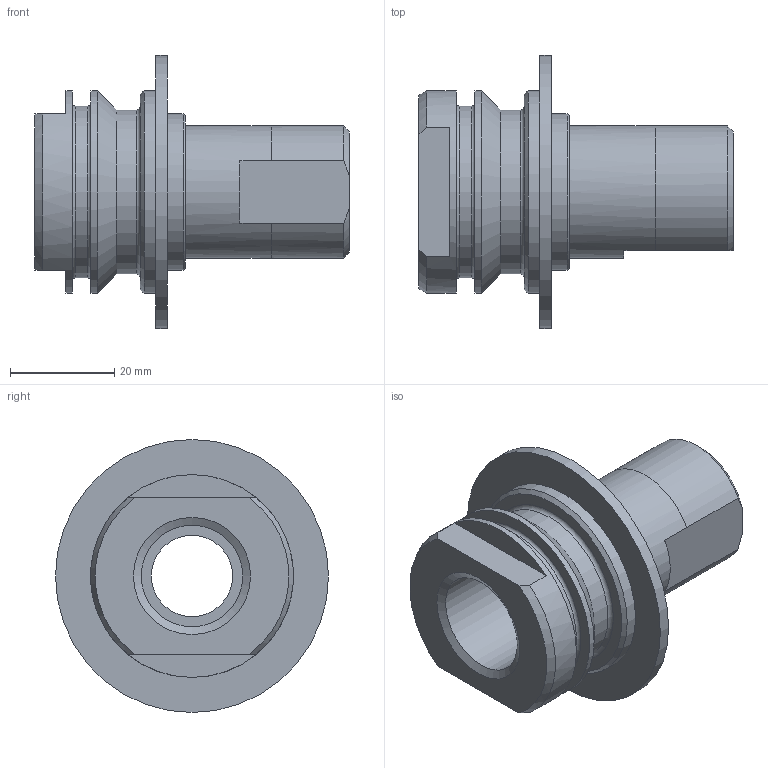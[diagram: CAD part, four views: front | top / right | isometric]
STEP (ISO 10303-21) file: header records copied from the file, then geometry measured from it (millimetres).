
FILE_DESCRIPTION(('STEP AP203'),'1');
FILE_NAME('VALVE 290 ECH 1.5.step','2020-01-07T10:04:03',(' '),(' '),'Spatial InterOp 3D',' ',' ');
FILE_SCHEMA(('CONFIG_CONTROL_DESIGN'));
Length unit declared in the file: millimetre
Products named in the file (1): 1
Bounding box: 60.45 x 52.5 x 52.5 mm (x, y, z)
Volume: 31316.4 mm3; surface area: 14224.2 mm2
Topology: 1 solids, 1 shells, 43 faces, 93 edges, 61 vertices
Faces by surface type: plane 17, cylinder 13, cone 7, torus 6
Full cylindrical faces by diameter (mm): 15.6 x2, 19.5 x1, 19.8 x1, 25.5 x1, 30 x1, 31.5 x1, 33 x1, 39 x3, 52.5 x1
Entity records: 1042 total; most frequent: DIRECTION 184, CARTESIAN_POINT 178, ORIENTED_EDGE 122, AXIS2_PLACEMENT_3D 85, EDGE_LOOP 76, FACE_OUTER_BOUND 61, EDGE_CURVE 61, VERTEX_POINT 51
